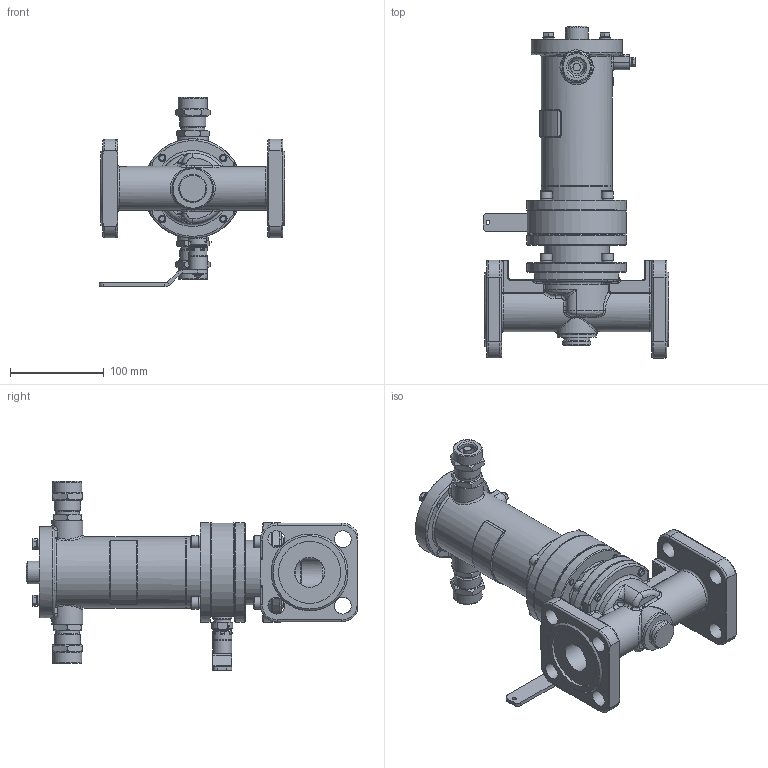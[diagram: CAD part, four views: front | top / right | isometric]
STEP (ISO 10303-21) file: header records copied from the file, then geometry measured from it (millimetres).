
FILE_DESCRIPTION(('STEP AP203'), '1');
FILE_NAME('捇迕-珅 DN32PN25-捔', '', ('UNSPECIFIED'), ('UNSPECIFIED'), 'C3D Converter', 'C3D Toolkit', '');
FILE_SCHEMA(('CONFIG_CONTROL_DESIGN'));
Length unit declared in the file: millimetre
Bounding box: 197.59 x 353.5 x 201.62 mm (x, y, z)
Volume: 401400.3 mm3; surface area: 375395.1 mm2
Topology: 10 solids, 12 shells, 3117 faces, 8425 edges, 5443 vertices
Faces by surface type: plane 1325, cylinder 1202, extrusion 240, cone 183, bspline 90, torus 75, sphere 2
Full cylindrical faces by diameter (mm): 1 x2, 2.459 x1, 3 x1, 3.1 x1, 3.242 x1, 3.5 x2, 4 x2, 4.134 x1, 4.3 x1, 4.917 x6, 5 x2, 6 x13, 6.3 x1, 6.5 x1, 6.647 x4, 7 x1, 8 x17, 8.5 x4, 9 x9, 10 x3, 11 x1, 12 x6, 13 x10, 13.8 x1, 14 x1, 15 x1, 16 x1, 17 x1, 17.8 x1, 18 x8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
Entity records: 148660 total; most frequent: CARTESIAN_POINT 46131, ORIENTED_EDGE 16101, DIRECTION 15685, EDGE_CURVE 8051, VERTEX_POINT 5851, AXIS2_PLACEMENT_3D 5671, VECTOR 4343, LINE 4103
